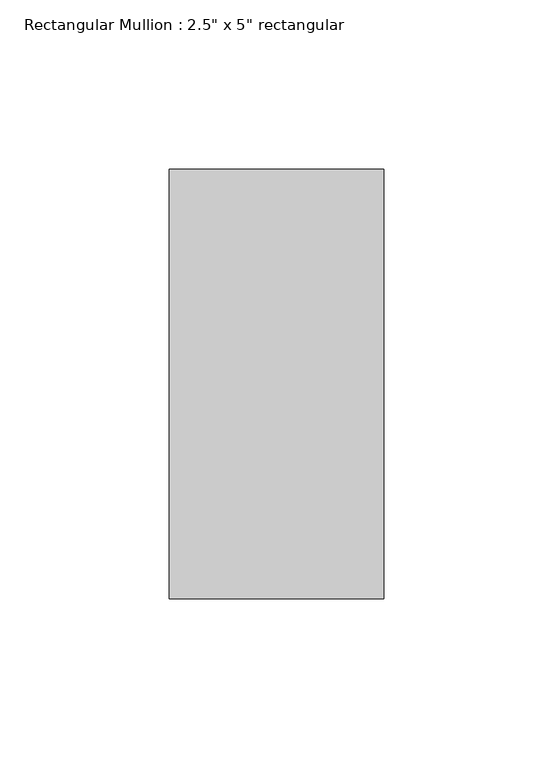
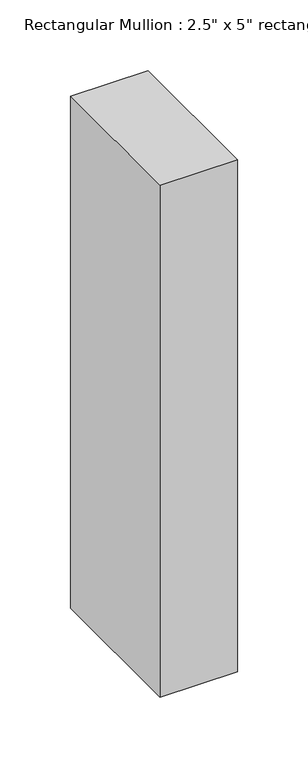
"""IFC4 building model written with IfcOpenShell, lengths in millimetres: member geometry."""

from ifc_helpers import new_model, si_unit, frame, origin, place, context, project, spatial, polyline, outline, extrude, source, transform, mapped, element, save


def member_801e719f(model_context):
    return source(origin(), model_context, "Body", "SweptSolid", [
        extrude(outline(polyline([(0.0, 63.5), (0.0, -63.5), (-63.5, -63.5), (-63.5, 63.5), (0.0, 63.5)])), frame((0.0, 0.0, -442.7123966), z_axis=(0.0, 0.0, 1.0), x_axis=(1.0, 0.0, 0.0)), (0.0, 0.0, 1.0), 442.7123966),
    ])


if __name__ == "__main__":
    model = new_model("IFC4")
    model_context = context("Model", 3, world=origin())
    ifc_project = project(units=[si_unit("LENGTHUNIT", "METRE", prefix="MILLI")], contexts=[model_context])
    site = spatial("IfcSite", under=ifc_project)
    building = spatial("IfcBuilding", under=site)
    placement = place(None, origin())
    member_shape = member_801e719f(model_context)
    element("IfcMember", 1, ObjectType="Rectangular Mullion : 2.5\" x 5\" rectangular", at=placement, inside=building, context=model_context, shape_type="MappedRepresentation", body=[
        mapped(member_shape, transform((0.0, 0.0, 0.0), x_axis=(1.0, 0.0, 0.0), y_axis=(0.0, 1.0, 0.0), z_axis=(0.0, 0.0, 1.0))),
    ])
    save(model, "model.ifc")
